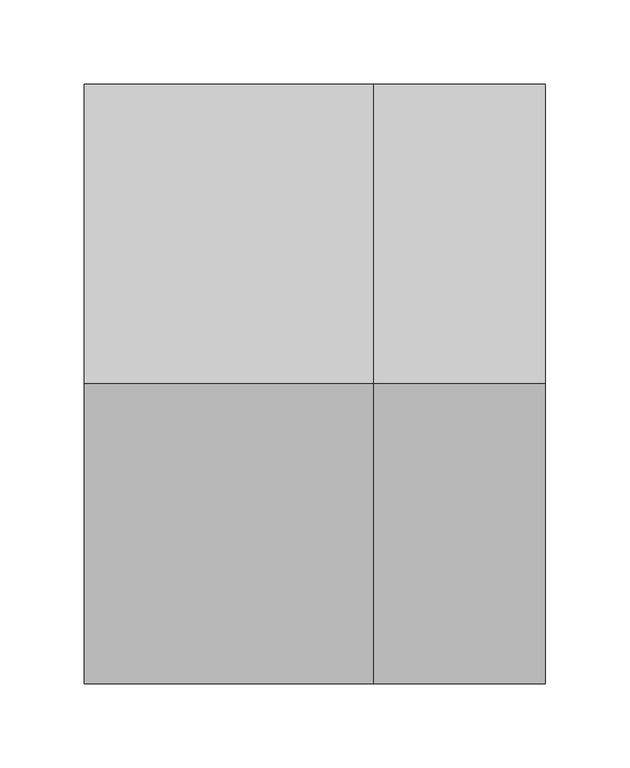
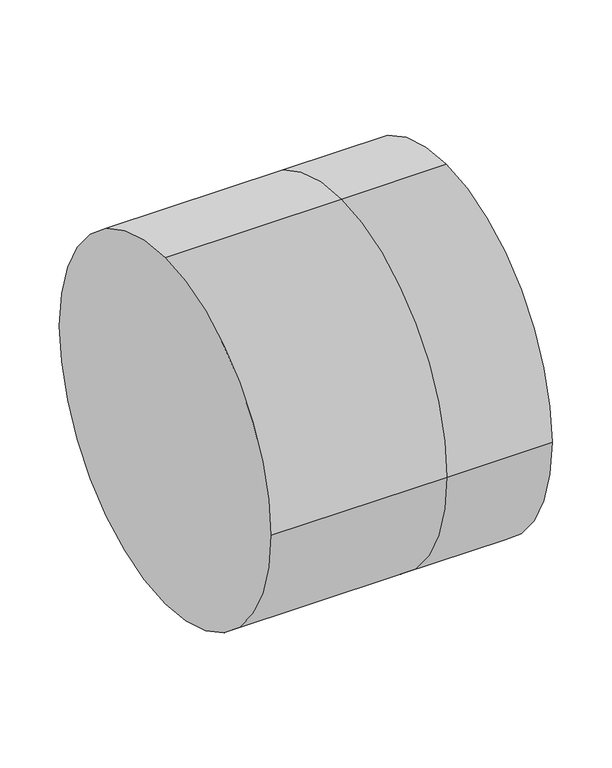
"""IFC4 building model written with IfcOpenShell, lengths in millimetres: duct fitting geometry, M_Encaixe de duto redondo : Padrão."""

from ifc_helpers import new_model, si_unit, frame, origin, place, context, project, spatial, circle_curve, source, transform, mapped, element, save
from ifc_brep_helpers import plane_surface, cylinder_surface, advanced_brep


def duct_fitting_294424ae(model_context):
    return source(origin(), model_context, "Body", "AdvancedBrep", [
        advanced_brep(
        [(101.6, 0.0, 177.5), (101.6, -177.5, 0.0), (101.6, 0.0, -177.5), (101.6, 177.5, 0.0), (0.0, 0.0, 177.5), (0.0, -177.5, 0.0), (0.0, 0.0, -177.5), (0.0, 177.5, 0.0), (-171.404, 0.0, 177.5), (-171.404, 177.5, 0.0), (-171.404, 0.0, -177.5), (-171.404, -177.5, 0.0)],
        [
            (0, 1, circle_curve(frame((101.6, 0.0, 0.0), z_axis=(1.0, 0.0, 0.0), x_axis=(0.0, -1.0, 0.0)), 177.5)),
            (1, 2, circle_curve(frame((101.6, 0.0, 0.0), z_axis=(1.0, 0.0, 0.0), x_axis=(0.0, -1.0, 0.0)), 177.5)),
            (2, 3, circle_curve(frame((101.6, 0.0, 0.0), z_axis=(1.0, 0.0, 0.0), x_axis=(0.0, -1.0, 0.0)), 177.5)),
            (3, 0, circle_curve(frame((101.6, 0.0, 0.0), z_axis=(1.0, 0.0, 0.0), x_axis=(0.0, -1.0, 0.0)), 177.5)),
            (0, 4),
            (4, 5, circle_curve(frame((0.0, 0.0, 0.0), z_axis=(1.0, 0.0, 0.0), x_axis=(0.0, -1.0, 0.0)), 177.5)),
            (5, 1),
            (5, 6, circle_curve(frame((0.0, 0.0, 0.0), z_axis=(1.0, 0.0, 0.0), x_axis=(0.0, -1.0, 0.0)), 177.5)),
            (6, 2),
            (6, 7, circle_curve(frame((0.0, 0.0, 0.0), z_axis=(1.0, 0.0, 0.0), x_axis=(0.0, -1.0, 0.0)), 177.5)),
            (7, 3),
            (7, 4, circle_curve(frame((0.0, 0.0, 0.0), z_axis=(1.0, 0.0, 0.0), x_axis=(0.0, -1.0, 0.0)), 177.5)),
            (8, 9, circle_curve(frame((-171.404, 0.0, 0.0), z_axis=(-1.0, 0.0, 0.0), x_axis=(0.0, -1.0, 0.0)), 177.5)),
            (9, 10, circle_curve(frame((-171.404, 0.0, 0.0), z_axis=(-1.0, 0.0, 0.0), x_axis=(0.0, -1.0, 0.0)), 177.5)),
            (10, 11, circle_curve(frame((-171.404, 0.0, 0.0), z_axis=(-1.0, 0.0, 0.0), x_axis=(0.0, -1.0, 0.0)), 177.5)),
            (11, 8, circle_curve(frame((-171.404, 0.0, 0.0), z_axis=(-1.0, 0.0, 0.0), x_axis=(0.0, -1.0, 0.0)), 177.5)),
            (11, 5),
            (4, 8),
            (10, 6),
            (9, 7),
        ],
        [
            plane_surface(frame((101.6, 0.0, 0.0), z_axis=(1.0, 0.0, 0.0), x_axis=(0.0, 0.0, 1.0))),
            cylinder_surface(frame((0.0, 0.0, 0.0), z_axis=(-1.0, 0.0, 0.0), x_axis=(0.0, -1.0, 0.0)), 177.5),
            plane_surface(frame((-171.404, 0.0, 0.0), z_axis=(-1.0, 0.0, 0.0), x_axis=(0.0, 0.0, 1.0))),
            cylinder_surface(frame((-171.404, 0.0, 0.0), z_axis=(-1.0, 0.0, 0.0), x_axis=(0.0, -1.0, 0.0)), 177.5),
        ],
        [
            (0, [[1, 2, 3, 4]]),
            (1, [[5, 6, 7, -1]]),
            (1, [[-7, 8, 9, -2]]),
            (1, [[-9, 10, 11, -3]]),
            (1, [[-11, 12, -5, -4]]),
            (2, [[13, 14, 15, 16]]),
            (3, [[17, -6, 18, -16]]),
            (3, [[19, -8, -17, -15]]),
            (3, [[20, -10, -19, -14]]),
            (3, [[-18, -12, -20, -13]]),
        ],
    ),
    ])


if __name__ == "__main__":
    model = new_model("IFC4")
    model_context = context("Model", 3, world=origin())
    ifc_project = project(units=[si_unit("LENGTHUNIT", "METRE", prefix="MILLI")], contexts=[model_context])
    site = spatial("IfcSite", under=ifc_project)
    building = spatial("IfcBuilding", under=site)
    placement = place(None, origin())
    duct_fitting_shape = duct_fitting_294424ae(model_context)
    element("IfcDuctFitting", 1, ObjectType="M_Encaixe de duto redondo : Padrão", at=placement, inside=building, context=model_context, shape_type="MappedRepresentation", body=[
        mapped(duct_fitting_shape, transform((0.0, 0.0, 0.0), x_axis=(1.0, 0.0, 0.0), y_axis=(0.0, 1.0, 0.0), z_axis=(0.0, 0.0, 1.0))),
    ])
    save(model, "model.ifc")
